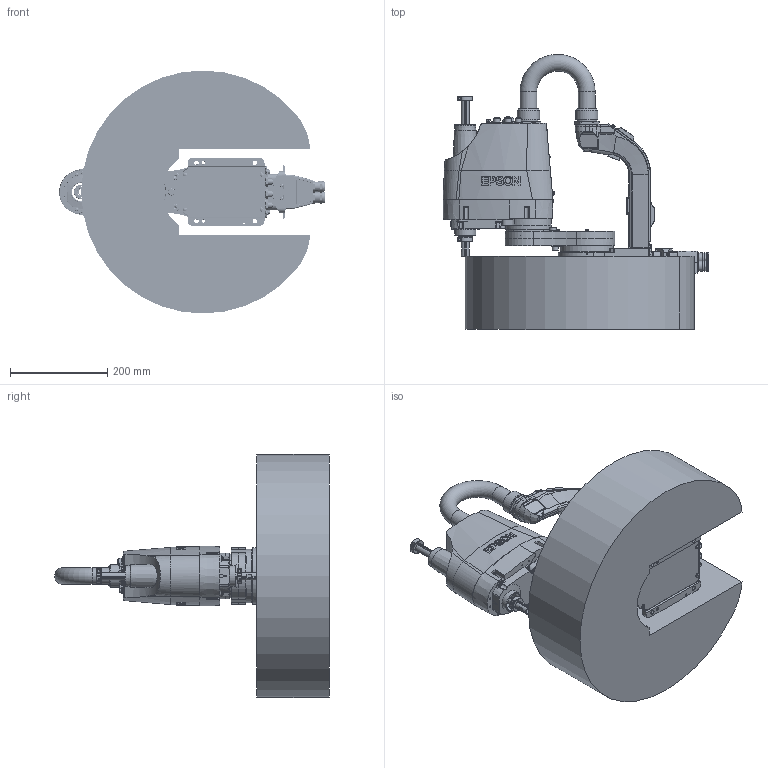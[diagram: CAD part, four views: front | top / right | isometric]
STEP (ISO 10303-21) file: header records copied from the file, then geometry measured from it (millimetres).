
FILE_DESCRIPTION( ( 'STEP AP214' ), '1' );
FILE_NAME( 'C:/Users/9607552/Desktop/GX4-A/GX4-A251SS-W.stp', '2023-04-07T04:32:42', ( '' ), ( '' ), ' ', 'PARTsolutions', ' ' );
FILE_SCHEMA( ( 'AUTOMOTIVE_DESIGN { 1 0 10303 214 1 1 1 1 }' ) );
Length unit declared in the file: millimetre
Products named in the file (8): GX4-A251SS-W; _A251S-b; _A251S_J1_ARM; _A251S-a; _A251S_CONDUIT; _A251S; _Straight; _GX4-21_WS
Assembly tree (7 placements, depth 2):
  GX4-A251SS-W
    _A251S-b
    _A251S_J1_ARM
    _A251S-a
    _A251S_CONDUIT
    _A251S
    _Straight
    _GX4-21_WS
Bounding box: 547.01 x 565.57 x 500 mm (x, y, z)
Volume: 29264717.1 mm3; surface area: 1284479.6 mm2
Topology: 7 solids, 7 shells, 3928 faces, 9657 edges, 6273 vertices
Faces by surface type: plane 2268, cylinder 1079, cone 371, torus 117, bspline 90, sphere 3
Full cylindrical faces by diameter (mm): 1 x30, 1.13 x55, 1.18 x55, 2.459 x4, 2.5 x18, 2.99 x1, 3 x47, 3.2 x4, 3.242 x1, 3.3 x39, 3.4 x32, 3.5 x12, 4 x3, 4.5 x16, 4.8 x8, 4.917 x2, 5.34 x8, 5.4 x14, 5.5 x26, 5.6 x4, 5.68 x4, 6 x21, 6.5 x12, 6.7 x4, 6.8 x4, 7 x44, 7.1 x4, 8 x16, 8.2 x8, 8.3 x4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
Entity records: 148341 total; most frequent: CARTESIAN_POINT 29063, ORIENTED_EDGE 17436, DIRECTION 17348, EDGE_CURVE 8718, AXIS2_PLACEMENT_3D 6618, VERTEX_POINT 6173, EDGE_LOOP 5354, FACE_OUTER_BOUND 4569
